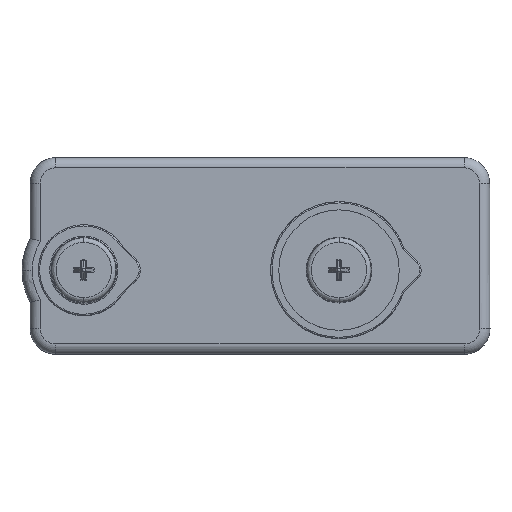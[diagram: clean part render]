
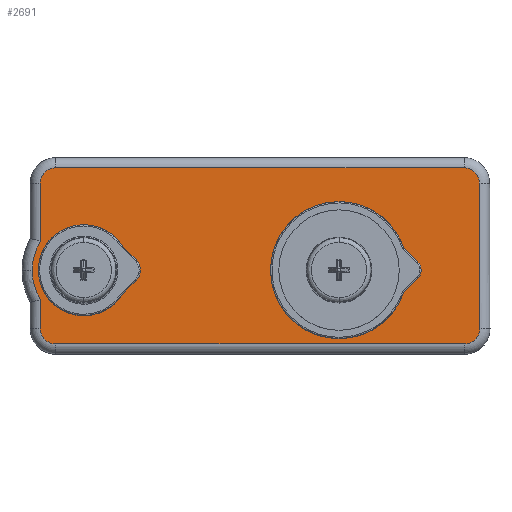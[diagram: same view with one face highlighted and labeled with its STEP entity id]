
A CAD part, top view. The second image highlights one B-rep face of the part: STEP entity #2691.
In plain terms, the highlighted planar face has unit normal (0, 0, 1).
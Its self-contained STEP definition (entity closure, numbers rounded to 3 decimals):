
#21 = EDGE_CURVE ( 'NONE', #3877, #5707, #6257, .T. ) ;
#44 = CARTESIAN_POINT ( 'NONE',  ( 1.819, 0.019, -10.5 ) ) ;
#208 = VECTOR ( 'NONE', #380, 1000. ) ;
#221 = CARTESIAN_POINT ( 'NONE',  ( -21., 40.2, -10.5 ) ) ;
#262 = AXIS2_PLACEMENT_3D ( 'NONE', #2295, #3305, #5329 ) ;
#344 = LINE ( 'NONE', #2365, #4925 ) ;
#362 = VERTEX_POINT ( 'NONE', #5194 ) ;
#366 = AXIS2_PLACEMENT_3D ( 'NONE', #4295, #2804, #2323 ) ;
#370 = DIRECTION ( 'NONE',  ( 1., 0., 0. ) ) ;
#380 = DIRECTION ( 'NONE',  ( 0., -1., 0. ) ) ;
#394 = DIRECTION ( 'NONE',  ( -1., 0., 0. ) ) ;
#435 = DIRECTION ( 'NONE',  ( -1., 0., 0. ) ) ;
#594 = EDGE_CURVE ( 'NONE', #5557, #2233, #1994, .T. ) ;
#597 = AXIS2_PLACEMENT_3D ( 'NONE', #5901, #2947, #4400 ) ;
#609 = CARTESIAN_POINT ( 'NONE',  ( -17., -22.802, -10.5 ) ) ;
#641 = VERTEX_POINT ( 'NONE', #1630 ) ;
#824 = CARTESIAN_POINT ( 'NONE',  ( 149.164, -28.8, -10.5 ) ) ;
#866 = ORIENTED_EDGE ( 'NONE', *, *, #5257, .T. ) ;
#1022 = CIRCLE ( 'NONE', #3135, 22.025 ) ;
#1112 = CARTESIAN_POINT ( 'NONE',  ( -17., -22.805, -10.5 ) ) ;
#1140 = LINE ( 'NONE', #221, #3956 ) ;
#1201 = EDGE_CURVE ( 'NONE', #2233, #5211, #1022, .T. ) ;
#1264 = ORIENTED_EDGE ( 'NONE', *, *, #1201, .T. ) ;
#1328 = ORIENTED_EDGE ( 'NONE', *, *, #5090, .T. ) ;
#1381 = CARTESIAN_POINT ( 'NONE',  ( -11.005, -22.805, -10.5 ) ) ;
#1484 = VERTEX_POINT ( 'NONE', #2494 ) ;
#1493 = AXIS2_PLACEMENT_3D ( 'NONE', #2904, #2449, #394 ) ;
#1495 = DIRECTION ( 'NONE',  ( -0.001, -1., 0. ) ) ;
#1512 = DIRECTION ( 'NONE',  ( -0.002, 1., 0. ) ) ;
#1546 = LINE ( 'NONE', #2570, #2291 ) ;
#1630 = CARTESIAN_POINT ( 'NONE',  ( -11.01, -28.8, -10.5 ) ) ;
#1810 = ORIENTED_EDGE ( 'NONE', *, *, #4828, .T. ) ;
#1854 = LINE ( 'NONE', #4757, #3852 ) ;
#1895 = ORIENTED_EDGE ( 'NONE', *, *, #3213, .T. ) ;
#1969 = DIRECTION ( 'NONE',  ( 0., 0., 1. ) ) ;
#1975 = EDGE_CURVE ( 'NONE', #641, #5763, #3964, .T. ) ;
#1994 = CIRCLE ( 'NONE', #5654, 22.025 ) ;
#2016 = EDGE_CURVE ( 'NONE', #3132, #2477, #5098, .T. ) ;
#2077 = ORIENTED_EDGE ( 'NONE', *, *, #2016, .T. ) ;
#2233 = VERTEX_POINT ( 'NONE', #3469 ) ;
#2262 = PLANE ( 'NONE',  #366 ) ;
#2273 = CARTESIAN_POINT ( 'NONE',  ( -17., -22.81, -10.5 ) ) ;
#2291 = VECTOR ( 'NONE', #370, 1000. ) ;
#2295 = CARTESIAN_POINT ( 'NONE',  ( -11., 34.2, -10.5 ) ) ;
#2315 = AXIS2_PLACEMENT_3D ( 'NONE', #1381, #4988, #5502 ) ;
#2323 = DIRECTION ( 'NONE',  ( -1., 0., 0. ) ) ;
#2332 = ORIENTED_EDGE ( 'NONE', *, *, #1975, .F. ) ;
#2365 = CARTESIAN_POINT ( 'NONE',  ( -17., -22.802, -10.5 ) ) ;
#2391 = LINE ( 'NONE', #2506, #5745 ) ;
#2435 = LINE ( 'NONE', #5443, #208 ) ;
#2449 = DIRECTION ( 'NONE',  ( 0., 0., 1. ) ) ;
#2477 = VERTEX_POINT ( 'NONE', #3493 ) ;
#2483 = EDGE_CURVE ( 'NONE', #1484, #362, #5280, .T. ) ;
#2494 = CARTESIAN_POINT ( 'NONE',  ( 155.024, 34.215, -10.5 ) ) ;
#2506 = CARTESIAN_POINT ( 'NONE',  ( 155.024, 34.215, -10.5 ) ) ;
#2570 = CARTESIAN_POINT ( 'NONE',  ( 149.164, -28.8, -10.5 ) ) ;
#2660 = DIRECTION ( 'NONE',  ( -1., 0., 0. ) ) ;
#2691 = ADVANCED_FACE ( 'NONE', ( #6292 ), #2262, .F. ) ;
#2804 = DIRECTION ( 'NONE',  ( 0., 0., -1. ) ) ;
#2863 = DIRECTION ( 'NONE',  ( 0., -1., 0. ) ) ;
#2904 = CARTESIAN_POINT ( 'NONE',  ( 149.024, 34.2, -10.5 ) ) ;
#2938 = VERTEX_POINT ( 'NONE', #1112 ) ;
#2947 = DIRECTION ( 'NONE',  ( 0., 0., -1. ) ) ;
#3132 = VERTEX_POINT ( 'NONE', #824 ) ;
#3135 = AXIS2_PLACEMENT_3D ( 'NONE', #4891, #4398, #3906 ) ;
#3213 = EDGE_CURVE ( 'NONE', #3877, #5557, #2435, .T. ) ;
#3305 = DIRECTION ( 'NONE',  ( 0., 0., -1. ) ) ;
#3420 = AXIS2_PLACEMENT_3D ( 'NONE', #5995, #4947, #435 ) ;
#3443 = ORIENTED_EDGE ( 'NONE', *, *, #2483, .T. ) ;
#3469 = CARTESIAN_POINT ( 'NONE',  ( -20.206, 0.019, -10.5 ) ) ;
#3472 = DIRECTION ( 'NONE',  ( -1., 0., 0. ) ) ;
#3493 = CARTESIAN_POINT ( 'NONE',  ( 155.164, -22.785, -10.5 ) ) ;
#3852 = VECTOR ( 'NONE', #2863, 1000. ) ;
#3877 = VERTEX_POINT ( 'NONE', #4153 ) ;
#3906 = DIRECTION ( 'NONE',  ( -1., 0., 0. ) ) ;
#3956 = VECTOR ( 'NONE', #2660, 1000. ) ;
#3964 = CIRCLE ( 'NONE', #597, 5.99 ) ;
#4119 = ORIENTED_EDGE ( 'NONE', *, *, #4181, .T. ) ;
#4153 = CARTESIAN_POINT ( 'NONE',  ( -17., 34.2, -10.5 ) ) ;
#4181 = EDGE_CURVE ( 'NONE', #5663, #2938, #4206, .T. ) ;
#4206 = CIRCLE ( 'NONE', #2315, 5.995 ) ;
#4295 = CARTESIAN_POINT ( 'NONE',  ( 1.819, 0.019, -10.5 ) ) ;
#4398 = DIRECTION ( 'NONE',  ( 0., 0., 1. ) ) ;
#4400 = DIRECTION ( 'NONE',  ( -1., 0., 0. ) ) ;
#4526 = EDGE_CURVE ( 'NONE', #5211, #5663, #344, .T. ) ;
#4713 = EDGE_LOOP ( 'NONE', ( #2332, #1810, #2077, #5601, #3443, #866, #5830, #1895, #6461, #1264, #6239, #4119, #1328 ) ) ;
#4757 = CARTESIAN_POINT ( 'NONE',  ( -17., -32.8, -10.5 ) ) ;
#4828 = EDGE_CURVE ( 'NONE', #641, #3132, #1546, .T. ) ;
#4860 = EDGE_CURVE ( 'NONE', #2477, #1484, #2391, .T. ) ;
#4891 = CARTESIAN_POINT ( 'NONE',  ( 1.819, 0.019, -10.5 ) ) ;
#4925 = VECTOR ( 'NONE', #1495, 1000. ) ;
#4947 = DIRECTION ( 'NONE',  ( 0., 0., 1. ) ) ;
#4988 = DIRECTION ( 'NONE',  ( 0., 0., 1. ) ) ;
#5090 = EDGE_CURVE ( 'NONE', #2938, #5763, #1854, .T. ) ;
#5098 = CIRCLE ( 'NONE', #3420, 6. ) ;
#5117 = CARTESIAN_POINT ( 'NONE',  ( -17., 11.462, -10.5 ) ) ;
#5194 = CARTESIAN_POINT ( 'NONE',  ( 149.024, 40.2, -10.5 ) ) ;
#5211 = VERTEX_POINT ( 'NONE', #6134 ) ;
#5257 = EDGE_CURVE ( 'NONE', #362, #5707, #1140, .T. ) ;
#5280 = CIRCLE ( 'NONE', #1493, 6. ) ;
#5329 = DIRECTION ( 'NONE',  ( -1., 0., 0. ) ) ;
#5443 = CARTESIAN_POINT ( 'NONE',  ( -17., 12.532, -10.5 ) ) ;
#5502 = DIRECTION ( 'NONE',  ( -1., 0., 0. ) ) ;
#5557 = VERTEX_POINT ( 'NONE', #5117 ) ;
#5601 = ORIENTED_EDGE ( 'NONE', *, *, #4860, .T. ) ;
#5654 = AXIS2_PLACEMENT_3D ( 'NONE', #44, #1969, #3472 ) ;
#5663 = VERTEX_POINT ( 'NONE', #609 ) ;
#5707 = VERTEX_POINT ( 'NONE', #5744 ) ;
#5744 = CARTESIAN_POINT ( 'NONE',  ( -11., 40.2, -10.5 ) ) ;
#5745 = VECTOR ( 'NONE', #1512, 1000. ) ;
#5763 = VERTEX_POINT ( 'NONE', #2273 ) ;
#5830 = ORIENTED_EDGE ( 'NONE', *, *, #21, .F. ) ;
#5901 = CARTESIAN_POINT ( 'NONE',  ( -11.01, -22.81, -10.5 ) ) ;
#5995 = CARTESIAN_POINT ( 'NONE',  ( 149.164, -22.8, -10.5 ) ) ;
#6134 = CARTESIAN_POINT ( 'NONE',  ( -16.994, -11.434, -10.5 ) ) ;
#6239 = ORIENTED_EDGE ( 'NONE', *, *, #4526, .T. ) ;
#6257 = CIRCLE ( 'NONE', #262, 6. ) ;
#6292 = FACE_OUTER_BOUND ( 'NONE', #4713, .T. ) ;
#6461 = ORIENTED_EDGE ( 'NONE', *, *, #594, .T. ) ;
